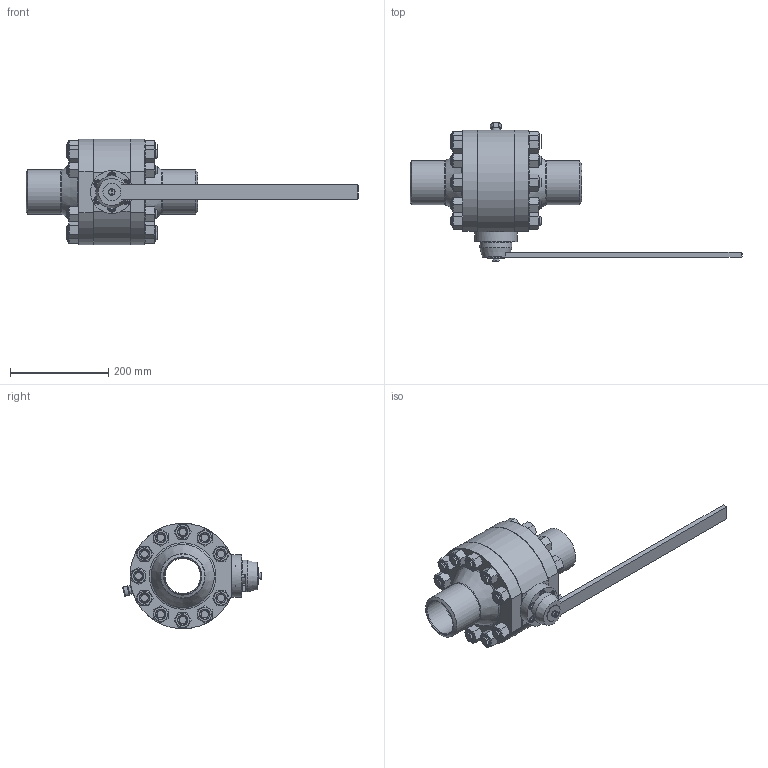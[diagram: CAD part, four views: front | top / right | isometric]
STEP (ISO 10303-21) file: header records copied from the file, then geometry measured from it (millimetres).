
FILE_DESCRIPTION(('STEP AP203'), '1');
FILE_NAME('ZARD 080.100.40.P.stp', '2013-12-06T11:31:48', ('Ñèçîâ À.Í.'), ('ÎÎÎ "ÈÊ Ýíåðïðåä-ßðäîñ"'), 'ASCON STEP Converter 1.3', 'Kompas 3D', '');
FILE_SCHEMA(('CONFIG_CONTROL_DESIGN','SUPPORT_RESOURCE_SCHEMA'));
Length unit declared in the file: millimetre
Products named in the file (1): 272
Bounding box: 677 x 283.22 x 214.98 mm (x, y, z)
Volume: 4542228.7 mm3; surface area: 624651.8 mm2
Topology: 1 solids, 20 shells, 769 faces, 1690 edges, 1056 vertices
Faces by surface type: plane 425, cone 182, cylinder 158, torus 4
Full cylindrical faces by diameter (mm): 8 x14, 8.2 x1, 8.5 x1, 10 x6, 11 x6, 12.2 x1, 13 x1, 14.422 x1, 16 x6, 17 x6, 17.33 x1, 20 x44, 22 x11, 25 x1, 28.7 x1, 29.8 x1, 30 x1, 31 x1, 36 x1, 40 x1, 40.5 x1, 65 x1, 72 x2, 74 x2, 87 x1, 88 x2, 90 x2, 90.5 x2, 111 x2, 120 x3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
Entity records: 34016 total; most frequent: CARTESIAN_POINT 17165, DIRECTION 3502, ORIENTED_EDGE 3368, EDGE_CURVE 1684, AXIS2_PLACEMENT_3D 1404, VERTEX_POINT 1056, EDGE_LOOP 910, ADVANCED_FACE 769
